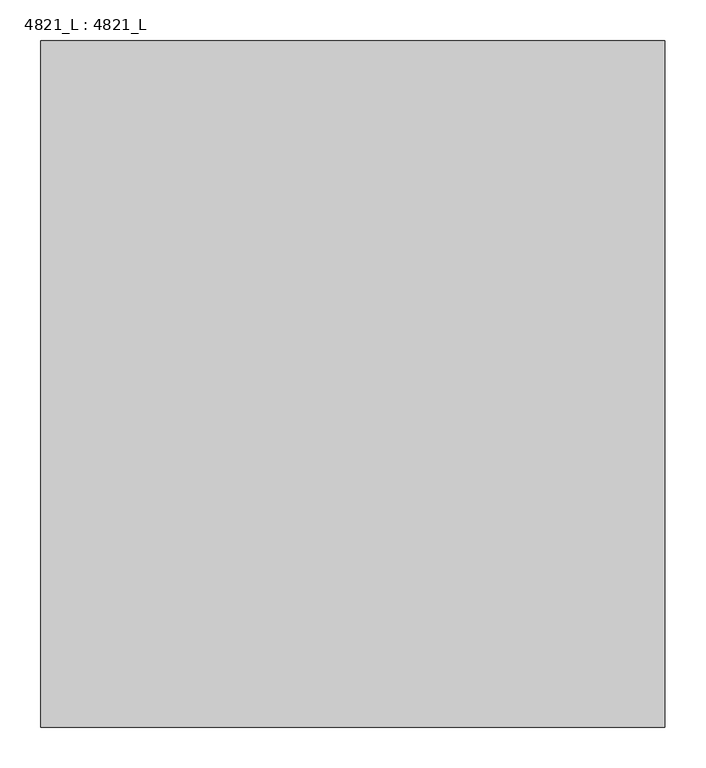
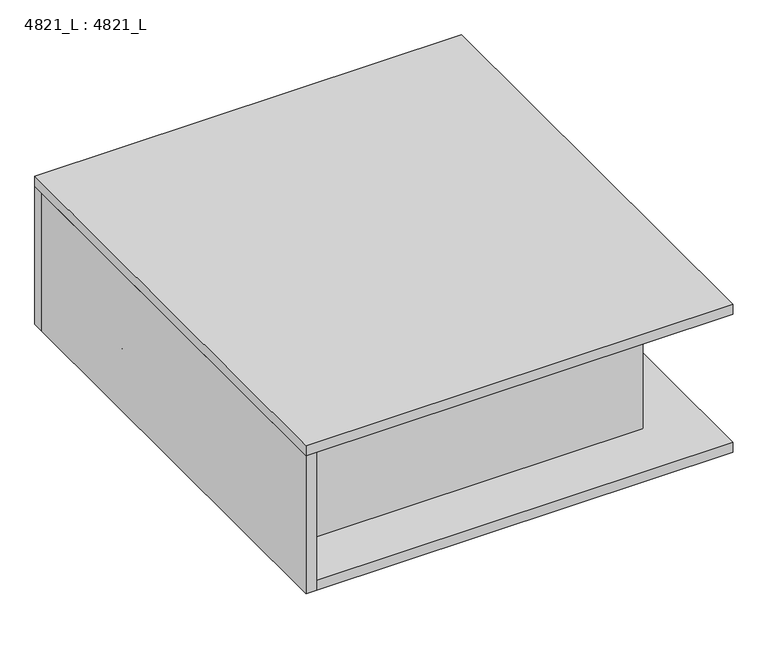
"""IFC4 building model written with IfcOpenShell, lengths in millimetres: furniture geometry, 4821_L : 4821_L."""

from ifc_helpers import new_model, si_unit, point, frame, frame_2d, origin, place, context, project, spatial, polyline, circle_curve, ellipse_curve, trimmed, segment, composite_curve, outline, extrude, source, transform, mapped, element, save
from ifc_brep_helpers import plane_surface, cylinder_surface, revolved_surface, advanced_brep


def furniture_4821_l_4821_l_8eaed623(model_context):
    return source(origin(), model_context, "Body", "SolidModel", [
        advanced_brep(
        [(155.575, -38.1, 41.5925), (60.325, -38.1, 41.5925), (57.15, -41.275, 41.5925), (57.15, -136.525, 41.5925), (60.325, -139.7, 41.5925), (155.575, -139.7, 41.5925), (158.75, -136.525, 41.5925), (158.75, -41.275, 41.5925), (58.42, -41.275, 11.1125), (60.325, -39.37, 11.1125), (155.575, -39.37, 11.1125), (157.48, -41.275, 11.1125), (157.48, -136.525, 11.1125), (155.575, -138.43, 11.1125), (60.325, -138.43, 11.1125), (58.42, -136.525, 11.1125), (155.575, -38.1, 11.1125), (60.325, -38.1, 11.1125), (57.15, -41.275, 11.1125), (57.15, -136.525, 11.1125), (60.325, -139.7, 11.1125), (155.575, -139.7, 11.1125), (158.75, -136.525, 11.1125), (158.75, -41.275, 11.1125), (60.325, -39.37, 9.8425), (58.42, -41.275, 9.8425), (155.575, -39.37, 9.8425), (157.48, -41.275, 9.8425), (157.48, -136.525, 9.8425), (155.575, -138.43, 9.8425), (60.325, -138.43, 9.8425), (58.42, -136.525, 9.8425)],
        [
            (0, 1),
            (1, 2, circle_curve(frame((60.325, -41.275, 41.5925), z_axis=(0.0, 0.0, 1.0), x_axis=(1.0, 0.0, 0.0)), 3.175)),
            (2, 3),
            (3, 4, circle_curve(frame((60.325, -136.525, 41.5925), z_axis=(0.0, 0.0, 1.0), x_axis=(1.0, 0.0, 0.0)), 3.175)),
            (4, 5),
            (5, 6, circle_curve(frame((155.575, -136.525, 41.5925), z_axis=(0.0, 0.0, 1.0), x_axis=(1.0, 0.0, 0.0)), 3.175)),
            (6, 7),
            (7, 0, circle_curve(frame((155.575, -41.275, 41.5925), z_axis=(0.0, 0.0, 1.0), x_axis=(1.0, 0.0, 0.0)), 3.175)),
            (8, 9, circle_curve(frame((60.325, -41.275, 11.1125), z_axis=(0.0, 0.0, -1.0), x_axis=(-1.0, 0.0, 0.0)), 1.905)),
            (9, 10),
            (10, 11, circle_curve(frame((155.575, -41.275, 11.1125), z_axis=(0.0, 0.0, -1.0), x_axis=(0.0, 1.0, 0.0)), 1.905)),
            (11, 12),
            (12, 13, circle_curve(frame((155.575, -136.525, 11.1125), z_axis=(0.0, 0.0, -1.0), x_axis=(1.0, 0.0, 0.0)), 1.905)),
            (13, 14),
            (14, 15, circle_curve(frame((60.325, -136.525, 11.1125), z_axis=(0.0, 0.0, -1.0), x_axis=(0.0, -1.0, 0.0)), 1.905)),
            (15, 8),
            (0, 16),
            (16, 17),
            (17, 1),
            (17, 18, circle_curve(frame((60.325, -41.275, 11.1125), z_axis=(0.0, 0.0, 1.0), x_axis=(1.0, 0.0, 0.0)), 3.175)),
            (18, 2),
            (18, 19),
            (19, 3),
            (19, 20, circle_curve(frame((60.325, -136.525, 11.1125), z_axis=(0.0, 0.0, 1.0), x_axis=(1.0, 0.0, 0.0)), 3.175)),
            (20, 4),
            (20, 21),
            (21, 5),
            (21, 22, circle_curve(frame((155.575, -136.525, 11.1125), z_axis=(0.0, 0.0, 1.0), x_axis=(1.0, 0.0, 0.0)), 3.175)),
            (22, 6),
            (22, 23),
            (23, 7),
            (23, 16, circle_curve(frame((155.575, -41.275, 11.1125), z_axis=(0.0, 0.0, 1.0), x_axis=(1.0, 0.0, 0.0)), 3.175)),
            (24, 25, circle_curve(frame((60.325, -41.275, 9.8425), z_axis=(0.0, 0.0, 1.0), x_axis=(-1.0, 0.0, 0.0)), 1.905)),
            (25, 18, circle_curve(frame((58.42, -41.275, 11.1125), z_axis=(0.0, 1.0, 0.0), x_axis=(1.0, 0.0, 0.0)), 1.27)),
            (17, 24, circle_curve(frame((60.325, -39.37, 11.1125), z_axis=(-1.0, 0.0, 0.0), x_axis=(0.0, -1.0, 0.0)), 1.27)),
            (16, 26, circle_curve(frame((155.575, -39.37, 11.1125), z_axis=(-1.0, 0.0, 0.0), x_axis=(0.0, -1.0, 0.0)), 1.27)),
            (26, 24),
            (23, 27, circle_curve(frame((157.48, -41.275, 11.1125), z_axis=(0.0, 1.0, 0.0), x_axis=(-1.0, 0.0, 0.0)), 1.27)),
            (27, 26, circle_curve(frame((155.575, -41.275, 9.8425), z_axis=(0.0, 0.0, 1.0), x_axis=(0.0, 1.0, 0.0)), 1.905)),
            (22, 28, circle_curve(frame((157.48, -136.525, 11.1125), z_axis=(0.0, 1.0, 0.0), x_axis=(-1.0, 0.0, 0.0)), 1.27)),
            (28, 27),
            (21, 29, circle_curve(frame((155.575, -138.43, 11.1125), z_axis=(1.0, 0.0, 0.0), x_axis=(0.0, 1.0, 0.0)), 1.27)),
            (29, 28, circle_curve(frame((155.575, -136.525, 9.8425), z_axis=(0.0, 0.0, 1.0), x_axis=(1.0, 0.0, 0.0)), 1.905)),
            (20, 30, circle_curve(frame((60.325, -138.43, 11.1125), z_axis=(1.0, 0.0, 0.0), x_axis=(0.0, 1.0, 0.0)), 1.27)),
            (30, 29),
            (19, 31, circle_curve(frame((58.42, -136.525, 11.1125), z_axis=(0.0, -1.0, 0.0), x_axis=(1.0, 0.0, 0.0)), 1.27)),
            (31, 30, circle_curve(frame((60.325, -136.525, 9.8425), z_axis=(0.0, 0.0, 1.0), x_axis=(0.0, -1.0, 0.0)), 1.905)),
            (25, 31),
            (24, 9),
            (8, 25),
            (26, 10),
            (27, 11),
            (28, 12),
            (29, 13),
            (30, 14),
            (31, 15),
        ],
        [
            plane_surface(frame((60.325, -38.1, 41.5925), z_axis=(0.0, 0.0, 1.0), x_axis=(-1.0, 0.0, 0.0))),
            plane_surface(frame((60.325, -38.1, 11.1125), z_axis=(0.0, 0.0, -1.0), x_axis=(1.0, 0.0, 0.0))),
            plane_surface(frame((155.575, -38.1, 41.5925), z_axis=(0.0, 1.0, 0.0), x_axis=(0.0, 0.0, -1.0))),
            cylinder_surface(frame((60.325, -41.275, 11.1125), z_axis=(0.0, 0.0, 1.0), x_axis=(1.0, 0.0, 0.0)), 3.175),
            plane_surface(frame((57.15, -41.275, 41.5925), z_axis=(-1.0, 0.0, 0.0), x_axis=(0.0, 0.0, -1.0))),
            cylinder_surface(frame((60.325, -136.525, 11.1125), z_axis=(0.0, 0.0, 1.0), x_axis=(1.0, 0.0, 0.0)), 3.175),
            plane_surface(frame((60.325, -139.7, 41.5925), z_axis=(0.0, -1.0, 0.0), x_axis=(0.0, 0.0, -1.0))),
            cylinder_surface(frame((155.575, -136.525, 11.1125), z_axis=(0.0, 0.0, 1.0), x_axis=(1.0, 0.0, 0.0)), 3.175),
            plane_surface(frame((158.75, -136.525, 41.5925), z_axis=(1.0, 0.0, 0.0), x_axis=(0.0, 0.0, -1.0))),
            cylinder_surface(frame((155.575, -41.275, 11.1125), z_axis=(0.0, 0.0, 1.0), x_axis=(1.0, 0.0, 0.0)), 3.175),
            revolved_surface(trimmed(ellipse_curve(frame((58.42, -41.275, 11.1125), z_axis=(0.0, -1.0, 0.0), x_axis=(1.0, 0.0, 0.0)), 1.27, 1.27), [point((57.15, -41.275, 11.1125))], [point((58.42, -41.275, 9.8425))], True, "CARTESIAN"), (60.325, -41.275, 11.1125), (0.0, 0.0, -1.0)),
            cylinder_surface(frame((60.325, -39.37, 11.1125), z_axis=(-1.0, 0.0, 0.0), x_axis=(0.0, -1.0, 0.0)), 1.27),
            revolved_surface(trimmed(ellipse_curve(frame((155.575, -39.37, 11.1125), z_axis=(-1.0, 0.0, 0.0), x_axis=(0.0, -1.0, 0.0)), 1.27, 1.27), [point((155.575, -38.1, 11.1125))], [point((155.575, -39.37, 9.8425))], True, "CARTESIAN"), (155.575, -41.275, 11.1125), (0.0, 0.0, -1.0)),
            cylinder_surface(frame((157.48, -41.275, 11.1125), z_axis=(0.0, 1.0, 0.0), x_axis=(-1.0, 0.0, 0.0)), 1.27),
            revolved_surface(trimmed(ellipse_curve(frame((157.48, -136.525, 11.1125), z_axis=(0.0, 1.0, 0.0), x_axis=(-1.0, 0.0, 0.0)), 1.27, 1.27), [point((158.75, -136.525, 11.1125))], [point((157.48, -136.525, 9.8425))], True, "CARTESIAN"), (155.575, -136.525, 11.1125), (0.0, 0.0, -1.0)),
            cylinder_surface(frame((155.575, -138.43, 11.1125), z_axis=(1.0, 0.0, 0.0), x_axis=(0.0, 1.0, 0.0)), 1.27),
            revolved_surface(trimmed(ellipse_curve(frame((60.325, -138.43, 11.1125), z_axis=(1.0, 0.0, 0.0), x_axis=(0.0, 1.0, 0.0)), 1.27, 1.27), [point((60.325, -139.7, 11.1125))], [point((60.325, -138.43, 9.8425))], True, "CARTESIAN"), (60.325, -136.525, 11.1125), (0.0, 0.0, -1.0)),
            cylinder_surface(frame((58.42, -136.525, 11.1125), z_axis=(0.0, -1.0, 0.0), x_axis=(1.0, 0.0, 0.0)), 1.27),
            revolved_surface(polyline([(58.42, -41.275, 9.8425), (58.42, -41.275, 11.1125)]), (60.325, -41.275, 11.1125), (0.0, 0.0, -1.0)),
            plane_surface(frame((60.325, -39.37, 9.8425), z_axis=(0.0, -1.0, 0.0), x_axis=(1.0, 0.0, 0.0))),
            revolved_surface(polyline([(155.575, -39.37, 9.8425), (155.575, -39.37, 11.1125)]), (155.575, -41.275, 11.1125), (0.0, 0.0, -1.0)),
            plane_surface(frame((157.48, -41.275, 9.8425), z_axis=(-1.0, 0.0, 0.0), x_axis=(0.0, -1.0, 0.0))),
            revolved_surface(polyline([(157.48, -136.525, 9.8425), (157.48, -136.525, 11.1125)]), (155.575, -136.525, 11.1125), (0.0, 0.0, -1.0)),
            plane_surface(frame((155.575, -138.43, 9.8425), z_axis=(0.0, 1.0, 0.0), x_axis=(-1.0, 0.0, 0.0))),
            revolved_surface(polyline([(60.325, -138.43, 9.8425), (60.325, -138.43, 11.1125)]), (60.325, -136.525, 11.1125), (0.0, 0.0, -1.0)),
            plane_surface(frame((58.42, -136.525, 9.8425), z_axis=(1.0, 0.0, 0.0), x_axis=(0.0, 1.0, 0.0))),
        ],
        [
            (0, [[1, 2, 3, 4, 5, 6, 7, 8]]),
            (1, [[9, 10, 11, 12, 13, 14, 15, 16]]),
            (2, [[-1, 17, 18, 19]]),
            (3, [[-2, -19, 20, 21]]),
            (4, [[-3, -21, 22, 23]]),
            (5, [[-4, -23, 24, 25]]),
            (6, [[-5, -25, 26, 27]]),
            (7, [[-6, -27, 28, 29]]),
            (8, [[-7, -29, 30, 31]]),
            (9, [[-8, -31, 32, -17]]),
            (10, [[33, 34, -20, 35]]),
            (11, [[-35, -18, 36, 37]]),
            (12, [[-36, -32, 38, 39]]),
            (13, [[-38, -30, 40, 41]]),
            (14, [[-40, -28, 42, 43]]),
            (15, [[-42, -26, 44, 45]]),
            (16, [[-44, -24, 46, 47]]),
            (17, [[-34, 48, -46, -22]]),
            (18, [[-33, 49, -9, 50]]),
            (19, [[-37, 51, -10, -49]]),
            (20, [[-39, 52, -11, -51]]),
            (21, [[-41, 53, -12, -52]]),
            (22, [[-43, 54, -13, -53]]),
            (23, [[-45, 55, -14, -54]]),
            (24, [[-47, 56, -15, -55]]),
            (25, [[-48, -50, -16, -56]]),
        ],
    ),
        extrude(outline(composite_curve([segment(trimmed(circle_curve(frame_2d((60.325, -136.525)), 1.905), [point((60.325, -138.43))], [point((58.42, -136.525))], False, "CARTESIAN"), True, "CONTINUOUS"), segment(polyline([(58.42, -136.525), (58.42, -41.275)]), True, "CONTINUOUS"), segment(trimmed(circle_curve(frame_2d((60.325, -41.275)), 1.905), [point((58.42, -41.275))], [point((60.325, -39.37))], False, "CARTESIAN"), True, "CONTINUOUS"), segment(polyline([(60.325, -39.37), (155.575, -39.37)]), True, "CONTINUOUS"), segment(trimmed(circle_curve(frame_2d((155.575, -41.275)), 1.905), [point((155.575, -39.37))], [point((157.48, -41.275))], False, "CARTESIAN"), True, "CONTINUOUS"), segment(polyline([(157.48, -41.275), (157.48, -136.525)]), True, "CONTINUOUS"), segment(trimmed(circle_curve(frame_2d((155.575, -136.525)), 1.905), [point((157.48, -136.525))], [point((155.575, -138.43))], False, "CARTESIAN"), True, "CONTINUOUS"), segment(polyline([(155.575, -138.43), (60.325, -138.43)]), True, "CONTINUOUS")], self_intersect=False)), frame((0.0, 0.0, 9.8425), z_axis=(0.0, 0.0, 1.0), x_axis=(1.0, 0.0, 0.0)), (0.0, 0.0, 1.0), 1.27),
        advanced_brep(
        [(97.7978666, -88.9, 0.0), (118.1021334, -88.9, 0.0), (107.95, -88.9, 0.0), (97.4725, -88.9, 5.08), (118.4275, -88.9, 5.08), (97.4725, -88.9, 9.0481974), (118.4275, -88.9, 9.0481974), (98.2668026, -88.9, 9.8425), (117.6331974, -88.9, 9.8425), (107.95, -88.9, 9.8425)],
        [
            (0, 1, circle_curve(frame((107.95, -88.9, 0.0), z_axis=(0.0, 0.0, -1.0), x_axis=(1.0, 0.0, 0.0)), 10.1521334)),
            (1, 2),
            (2, 0),
            (1, 0, circle_curve(frame((107.95, -88.9, 0.0), z_axis=(0.0, 0.0, -1.0), x_axis=(1.0, 0.0, 0.0)), 10.1521334)),
            (3, 4, circle_curve(frame((107.95, -88.9, 5.08), z_axis=(0.0, 0.0, -1.0), x_axis=(1.0, 0.0, 0.0)), 10.4775)),
            (4, 1, circle_curve(frame((118.1021334, -88.9, 2.5504196), z_axis=(0.0, 1.0, 0.0), x_axis=(1.0, 0.0, 0.0)), 2.5504196)),
            (0, 3, circle_curve(frame((97.7978666, -88.9, 2.5504196), z_axis=(0.0, 1.0, 0.0), x_axis=(-1.0, 0.0, 0.0)), 2.5504196)),
            (4, 3, circle_curve(frame((107.95, -88.9, 5.08), z_axis=(0.0, 0.0, -1.0), x_axis=(1.0, 0.0, 0.0)), 10.4775)),
            (5, 6, circle_curve(frame((107.95, -88.9, 9.0481974), z_axis=(0.0, 0.0, -1.0), x_axis=(1.0, 0.0, 0.0)), 10.4775)),
            (6, 4),
            (3, 5),
            (6, 5, circle_curve(frame((107.95, -88.9, 9.0481974), z_axis=(0.0, 0.0, -1.0), x_axis=(1.0, 0.0, 0.0)), 10.4775)),
            (7, 8, circle_curve(frame((107.95, -88.9, 9.8425), z_axis=(0.0, 0.0, -1.0), x_axis=(1.0, 0.0, 0.0)), 9.6831974)),
            (8, 6, circle_curve(frame((117.6331974, -88.9, 9.0481974), z_axis=(0.0, 1.0, 0.0), x_axis=(1.0, 0.0, 0.0)), 0.7943026)),
            (5, 7, circle_curve(frame((98.2668026, -88.9, 9.0481974), z_axis=(0.0, 1.0, 0.0), x_axis=(-1.0, 0.0, 0.0)), 0.7943026)),
            (8, 7, circle_curve(frame((107.95, -88.9, 9.8425), z_axis=(0.0, 0.0, -1.0), x_axis=(1.0, 0.0, 0.0)), 9.6831974)),
            (9, 8),
            (7, 9),
        ],
        [
            plane_surface(frame((107.95, -88.9, 0.0), z_axis=(0.0, 0.0, -1.0), x_axis=(1.0, 0.0, 0.0))),
            revolved_surface(trimmed(ellipse_curve(frame((118.1021334, -88.9, 2.5504196), z_axis=(0.0, -1.0, 0.0), x_axis=(1.0, 0.0, 0.0)), 2.5504196, 2.5504196), [point((118.1021334, -88.9, 0.0))], [point((118.4275, -88.9, 5.08))], True, "CARTESIAN"), (107.95, -88.9, 9.8425), (0.0, 0.0, 1.0)),
            cylinder_surface(frame((107.95, -88.9, 9.8425), z_axis=(0.0, 0.0, 1.0), x_axis=(1.0, 0.0, 0.0)), 10.4775),
            revolved_surface(trimmed(ellipse_curve(frame((117.6331974, -88.9, 9.0481974), z_axis=(0.0, -1.0, 0.0), x_axis=(1.0, 0.0, 0.0)), 0.7943026, 0.7943026), [point((118.4275, -88.9, 9.0481974))], [point((117.6331974, -88.9, 9.8425))], True, "CARTESIAN"), (107.95, -88.9, 9.8425), (0.0, 0.0, 1.0)),
            plane_surface(frame((107.95, -88.9, 9.8425), z_axis=(0.0, 0.0, 1.0), x_axis=(1.0, 0.0, 0.0))),
        ],
        [
            (0, [[1, 2, 3]]),
            (0, [[4, -3, -2]]),
            (1, [[5, 6, -1, 7]]),
            (1, [[8, -7, -4, -6]]),
            (2, [[9, 10, -5, 11]]),
            (2, [[12, -11, -8, -10]]),
            (3, [[13, 14, -9, 15]]),
            (3, [[16, -15, -12, -14]]),
            (4, [[17, -13, 18]]),
            (4, [[-18, -16, -17]]),
        ],
    ),
        extrude(outline(polyline([(19.05, -736.6), (19.05, -19.05), (660.4, -19.05), (660.4, -736.6), (19.05, -736.6)])), frame((0.0, 0.0, 60.6425), z_axis=(0.0, 0.0, 1.0), x_axis=(1.0, 0.0, 0.0)), (0.0, 0.0, 1.0), 241.3),
        extrude(outline(polyline([(762.0, 0.0), (762.0, -838.2), (0.0, -838.2), (0.0, 0.0), (762.0, 0.0)])), frame((0.0, 0.0, 301.9425), z_axis=(0.0, 0.0, 1.0), x_axis=(1.0, 0.0, 0.0)), (0.0, 0.0, 1.0), 19.05),
        extrude(outline(polyline([(0.0, 0.0), (762.0, 0.0), (762.0, -19.05), (0.0, -19.05), (0.0, 0.0)])), frame((0.0, 0.0, 41.5925), z_axis=(0.0, 0.0, 1.0), x_axis=(1.0, 0.0, 0.0)), (0.0, 0.0, 1.0), 260.35),
        extrude(outline(polyline([(0.0, -838.2), (0.0, -19.05), (19.05, -19.05), (19.05, -838.2), (0.0, -838.2)])), frame((0.0, 0.0, 41.5925), z_axis=(0.0, 0.0, 1.0), x_axis=(1.0, 0.0, 0.0)), (0.0, 0.0, 1.0), 260.35),
        extrude(outline(polyline([(19.05, -19.05), (762.0, -19.05), (762.0, -838.2), (19.05, -838.2), (19.05, -19.05)])), frame((0.0, 0.0, 41.5925), z_axis=(0.0, 0.0, 1.0), x_axis=(1.0, 0.0, 0.0)), (0.0, 0.0, 1.0), 19.05),
    ])


if __name__ == "__main__":
    model = new_model("IFC4")
    model_context = context("Model", 3, world=origin())
    ifc_project = project(units=[si_unit("LENGTHUNIT", "METRE", prefix="MILLI")], contexts=[model_context])
    site = spatial("IfcSite", under=ifc_project)
    building = spatial("IfcBuilding", under=site)
    placement = place(None, origin())
    furniture_4821_l_4821_l_shape = furniture_4821_l_4821_l_8eaed623(model_context)
    element("IfcFurniture", 1, ObjectType="4821_L : 4821_L", at=placement, inside=building, context=model_context, shape_type="MappedRepresentation", body=[
        mapped(furniture_4821_l_4821_l_shape, transform((0.0, 0.0, 0.0), x_axis=(1.0, 0.0, 0.0), y_axis=(0.0, 1.0, 0.0), z_axis=(0.0, 0.0, 1.0))),
    ])
    save(model, "model.ifc")
